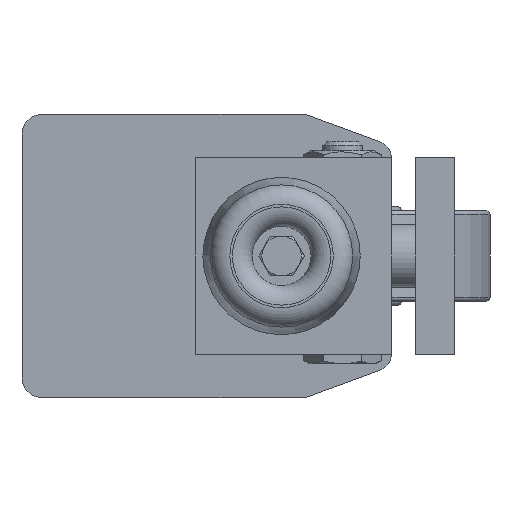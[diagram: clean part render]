
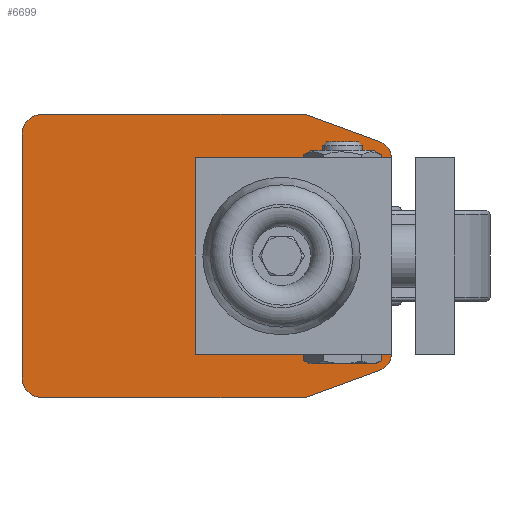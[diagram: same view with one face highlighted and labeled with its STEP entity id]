
A CAD part, left-side view. The second image highlights one B-rep face of the part: STEP entity #6699.
In plain terms, the highlighted planar face has unit normal (-1, 0, 0) as drawn and (0, 0, -1) by its records, which use the part's own axes.
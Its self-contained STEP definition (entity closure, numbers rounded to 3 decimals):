
#223=CIRCLE('',#7390,5.);
#225=CIRCLE('',#7394,5.);
#227=CIRCLE('',#7399,5.);
#229=CIRCLE('',#7403,5.);
#931=FACE_OUTER_BOUND('',#1316,.T.);
#1316=EDGE_LOOP('',(#4682,#4683,#4684,#4685,#4686,#4687,#4688,#4689,#4690,
#4691));
#1772=LINE('',#10620,#2306);
#1776=LINE('',#10632,#2310);
#1779=LINE('',#10638,#2313);
#1783=LINE('',#10650,#2317);
#1787=LINE('',#10662,#2321);
#1789=LINE('',#10665,#2323);
#2306=VECTOR('',#8404,10.);
#2310=VECTOR('',#8416,10.);
#2313=VECTOR('',#8421,10.);
#2317=VECTOR('',#8433,10.);
#2321=VECTOR('',#8445,10.);
#2323=VECTOR('',#8449,10.);
#2805=VERTEX_POINT('',#10610);
#2806=VERTEX_POINT('',#10612);
#2808=VERTEX_POINT('',#10618);
#2810=VERTEX_POINT('',#10624);
#2812=VERTEX_POINT('',#10630);
#2814=VERTEX_POINT('',#10636);
#2816=VERTEX_POINT('',#10642);
#2818=VERTEX_POINT('',#10648);
#2820=VERTEX_POINT('',#10654);
#2822=VERTEX_POINT('',#10660);
#3523=EDGE_CURVE('',#2806,#2805,#223,.T.);
#3527=EDGE_CURVE('',#2805,#2808,#1772,.T.);
#3530=EDGE_CURVE('',#2808,#2810,#225,.T.);
#3533=EDGE_CURVE('',#2810,#2812,#1776,.T.);
#3536=EDGE_CURVE('',#2812,#2814,#1779,.T.);
#3539=EDGE_CURVE('',#2814,#2816,#227,.T.);
#3542=EDGE_CURVE('',#2816,#2818,#1783,.T.);
#3545=EDGE_CURVE('',#2818,#2820,#229,.T.);
#3548=EDGE_CURVE('',#2820,#2822,#1787,.T.);
#3550=EDGE_CURVE('',#2822,#2806,#1789,.T.);
#4682=ORIENTED_EDGE('',*,*,#3550,.T.);
#4683=ORIENTED_EDGE('',*,*,#3523,.T.);
#4684=ORIENTED_EDGE('',*,*,#3527,.T.);
#4685=ORIENTED_EDGE('',*,*,#3530,.T.);
#4686=ORIENTED_EDGE('',*,*,#3533,.T.);
#4687=ORIENTED_EDGE('',*,*,#3536,.T.);
#4688=ORIENTED_EDGE('',*,*,#3539,.T.);
#4689=ORIENTED_EDGE('',*,*,#3542,.T.);
#4690=ORIENTED_EDGE('',*,*,#3545,.T.);
#4691=ORIENTED_EDGE('',*,*,#3548,.T.);
#6497=PLANE('',#7407);
#6699=ADVANCED_FACE('',(#931),#6497,.F.);
#7390=AXIS2_PLACEMENT_3D('',#10613,#8397,#8398);
#7394=AXIS2_PLACEMENT_3D('',#10626,#8410,#8411);
#7399=AXIS2_PLACEMENT_3D('',#10644,#8427,#8428);
#7403=AXIS2_PLACEMENT_3D('',#10656,#8439,#8440);
#7407=AXIS2_PLACEMENT_3D('',#10667,#8452,#8453);
#8397=DIRECTION('center_axis',(0.,0.,-1.));
#8398=DIRECTION('ref_axis',(0.,1.,0.));
#8404=DIRECTION('',(-1.,0.,0.));
#8410=DIRECTION('center_axis',(0.,0.,-1.));
#8411=DIRECTION('ref_axis',(0.94,0.342,0.));
#8416=DIRECTION('',(-0.342,0.94,0.));
#8421=DIRECTION('',(0.,1.,0.));
#8427=DIRECTION('center_axis',(0.,0.,-1.));
#8428=DIRECTION('ref_axis',(0.,-1.,0.));
#8433=DIRECTION('',(1.,0.,0.));
#8439=DIRECTION('center_axis',(0.,0.,-1.));
#8440=DIRECTION('ref_axis',(-1.,0.,0.));
#8445=DIRECTION('',(0.,-1.,0.));
#8449=DIRECTION('',(-0.342,-0.94,0.));
#8452=DIRECTION('center_axis',(0.,0.,1.));
#8453=DIRECTION('ref_axis',(1.,0.,0.));
#10610=CARTESIAN_POINT('',(24.492,0.,0.));
#10612=CARTESIAN_POINT('',(29.19,3.29,0.));
#10613=CARTESIAN_POINT('Origin',(24.492,5.,0.));
#10618=CARTESIAN_POINT('',(-24.492,0.,0.));
#10620=CARTESIAN_POINT('',(24.492,0.,0.));
#10624=CARTESIAN_POINT('',(-29.19,3.29,0.));
#10626=CARTESIAN_POINT('Origin',(-24.492,5.,0.));
#10630=CARTESIAN_POINT('',(-36.,22.,0.));
#10632=CARTESIAN_POINT('',(-29.19,3.29,0.));
#10636=CARTESIAN_POINT('',(-36.,89.,0.));
#10638=CARTESIAN_POINT('',(-36.,22.,0.));
#10642=CARTESIAN_POINT('',(-31.,94.,0.));
#10644=CARTESIAN_POINT('Origin',(-31.,89.,0.));
#10648=CARTESIAN_POINT('',(31.,94.,0.));
#10650=CARTESIAN_POINT('',(-31.,94.,0.));
#10654=CARTESIAN_POINT('',(36.,89.,0.));
#10656=CARTESIAN_POINT('Origin',(31.,89.,0.));
#10660=CARTESIAN_POINT('',(36.,22.,0.));
#10662=CARTESIAN_POINT('',(36.,89.,0.));
#10665=CARTESIAN_POINT('',(36.,22.,0.));
#10667=CARTESIAN_POINT('Origin',(0.,48.701,
0.));
